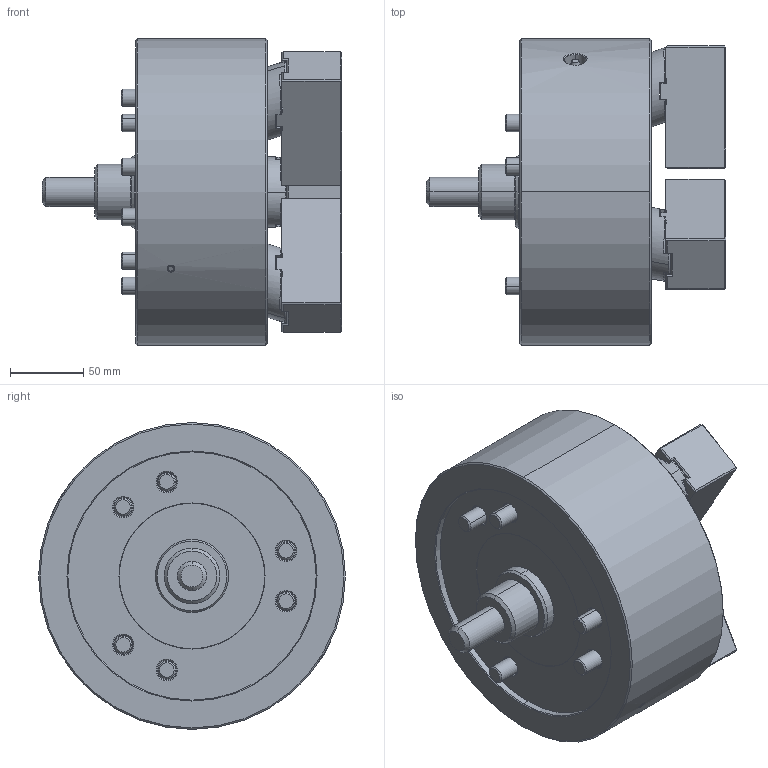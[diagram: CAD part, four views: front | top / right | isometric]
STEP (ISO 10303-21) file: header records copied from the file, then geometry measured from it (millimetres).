
FILE_DESCRIPTION (( 'STEP AP214' ), '1' );
FILE_NAME ('LU-08_CL.STEP', '2019-11-08T01:17:43', ( '' ), ( '' ), 'SwSTEP 2.0', 'SolidWorks 2017', '' );
FILE_SCHEMA (( 'AUTOMOTIVE_DESIGN' ));
Length unit declared in the file: millimetre
Products named in the file (4): 0030112025; 61P343325; LU-08_CL; 結合
Assembly tree (10 placements, depth 2):
  LU-08_CL
    61P343325  x3
    0030112025  x6
    結合
Bounding box: 205 x 210 x 210 mm (x, y, z)
Volume: 3411878.7 mm3; surface area: 288851.1 mm2
Topology: 10 solids, 11 shells, 1429 faces, 3488 edges, 2136 vertices
Faces by surface type: plane 790, cone 263, cylinder 197, bspline 147, torus 32
Entity records: 39920 total; most frequent: CARTESIAN_POINT 14642, ORIENTED_EDGE 5472, DIRECTION 4679, EDGE_CURVE 2736, VERTEX_POINT 1725, LINE 1633, VECTOR 1633, AXIS2_PLACEMENT_3D 1523
